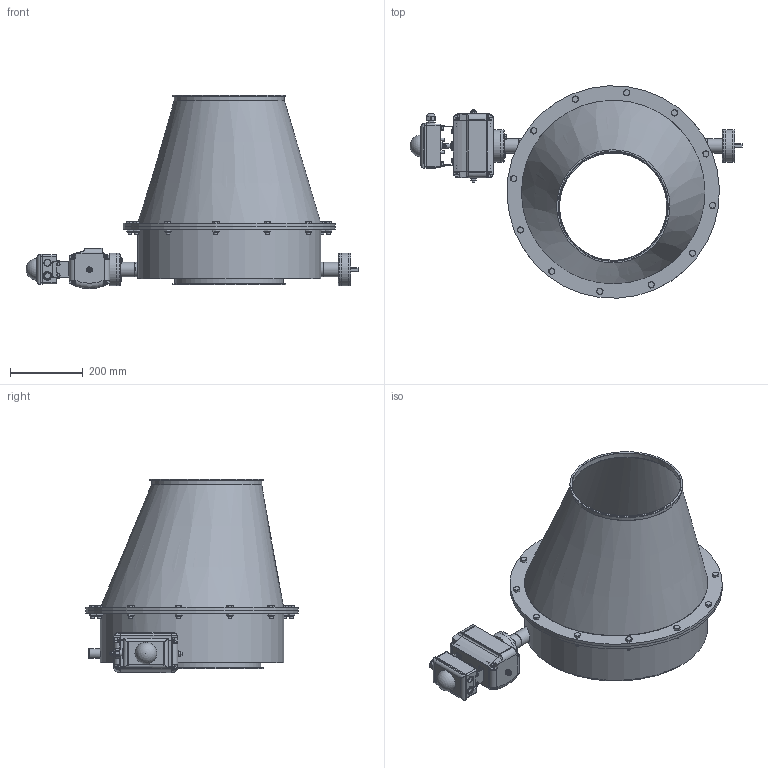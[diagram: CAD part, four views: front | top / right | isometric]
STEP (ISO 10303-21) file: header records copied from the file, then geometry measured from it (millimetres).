
FILE_DESCRIPTION((''),'2;1');
FILE_NAME('U:\Wolfgang\Marcel-3D\fertig\Kapitel 8\3021218.stp','2012-01-13T11:16:35',('iwienholt'),(''),'Autodesk Inventor 2010','Autodesk Inventor 2010','');
FILE_SCHEMA(('AUTOMOTIVE_DESIGN { 1 0 10303 214 1 1 1 1 }'));
Length unit declared in the file: millimetre
Products named in the file (27): 3021218; 3021218-1; 05081301; DIN EN ISO 4018 M10x30; DIN 555 - ersetzt durch DIN EN 24034 M10; wellenendeD20; Buchse D20 90-50; LagerdeckelD20; PendelkugellagerD20; EndstückD20; WellenendeD20 mit Antrieb; DIN EN ISO 4018 M8x35; Pneumatischer SchwenkantriebS85D-2; Body; roter Verschluss; A1 Schwenkantrieb S85D; Body S085D; DIN EN ISO 4018 M5x10; DIN 125-1 A A 13; End Cap L85; End Cap R85; DIN 125-1 A A 8,4; DIN 916 M8  x  40; DIN 555 - ersetzt durch DIN EN 24034 M8; DIN EN ISO 4762 M6 x 12; Halterung; Deckel2
Assembly tree (73 placements, depth 5):
  3021218
    3021218-1
    05081301  x2
    DIN EN ISO 4018 M10x30  x12
    DIN 555 - ersetzt durch DIN EN 24034 M10  x12
    wellenendeD20
      Buchse D20 90-50
      LagerdeckelD20
      PendelkugellagerD20
      EndstückD20
    WellenendeD20 mit Antrieb
      Buchse D20 90-50
      PendelkugellagerD20
      DIN EN ISO 4018 M8x35  x4
      Pneumatischer SchwenkantriebS85D-2
        Body
        roter Verschluss
        A1 Schwenkantrieb S85D
          Body S085D
          DIN EN ISO 4018 M5x10  x4
          DIN 125-1 A A 13  x2
          End Cap L85
          End Cap R85
          DIN 125-1 A A 8,4  x2
          DIN 916 M8  x  40  x2
          DIN 555 - ersetzt durch DIN EN 24034 M8  x2
          DIN EN ISO 4762 M6 x 12  x8
        Halterung  x2
        DIN EN ISO 4018 M5x10  x4
        Deckel2
Bounding box: 912.5 x 583.53 x 531.23 mm (x, y, z)
Volume: 5501964.7 mm3; surface area: 2498305.7 mm2
Topology: 71 solids, 71 shells, 1396 faces, 3176 edges, 2001 vertices
Faces by surface type: plane 702, cone 262, cylinder 219, bspline 173, torus 39, sphere 1
Full cylindrical faces by diameter (mm): 3.242 x4, 5 x10, 6 x8, 6.647 x4, 8 x10, 8.376 x1, 8.4 x2, 10 x20, 11.9 x2, 12.5 x1, 13 x5, 14 x1, 16 x2, 17 x1, 17.79 x2, 18 x3, 20.5 x2, 22 x1, 22.4 x1, 23 x2, 24 x3, 26.4 x1, 28.5 x1, 30 x3, 36 x2, 40 x5, 47 x2, 90 x5, 299 x1, 303 x1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
Entity records: 26863 total; most frequent: CARTESIAN_POINT 11102, DIRECTION 3102, ORIENTED_EDGE 2762, EDGE_CURVE 1381, AXIS2_PLACEMENT_3D 1218, EDGE_LOOP 999, VERTEX_POINT 972, FACE_OUTER_BOUND 680
